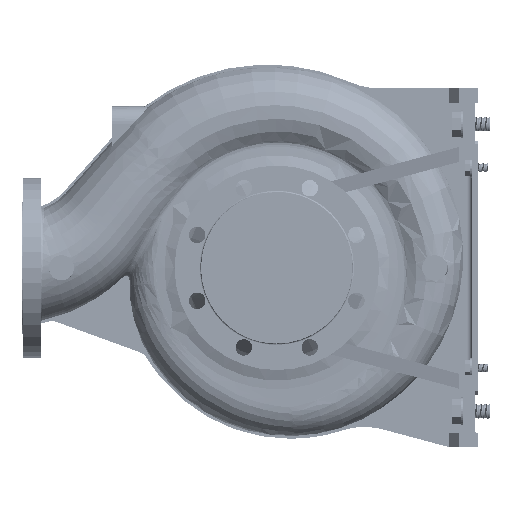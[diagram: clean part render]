
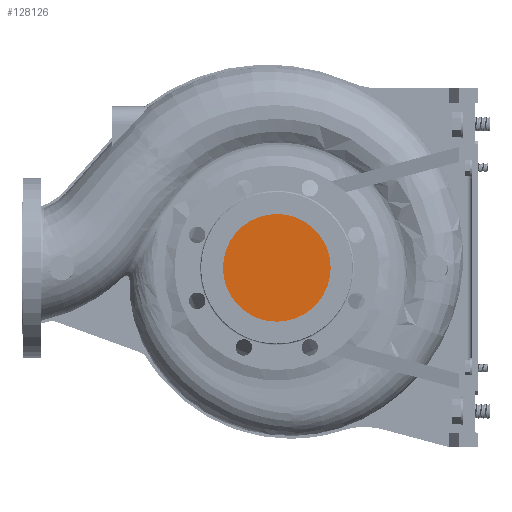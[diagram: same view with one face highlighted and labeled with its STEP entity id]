
A CAD part, left-side view. The second image highlights one B-rep face of the part: STEP entity #128126.
In plain terms, the highlighted planar face has unit normal (-1, 0, 0).
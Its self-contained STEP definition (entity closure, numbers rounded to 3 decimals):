
#1643 = EDGE_CURVE ( 'NONE', #21197, #67955, #199837, .T. ) ;
#4303 = DIRECTION ( 'NONE',  ( 0., 0., 1. ) ) ;
#5433 = AXIS2_PLACEMENT_3D ( 'NONE', #73733, #224554, #55204 ) ;
#21197 = VERTEX_POINT ( 'NONE', #211906 ) ;
#55204 = DIRECTION ( 'NONE',  ( 0., 0., 1. ) ) ;
#55246 = CARTESIAN_POINT ( 'NONE',  ( -135., 0., 0. ) ) ;
#55380 = AXIS2_PLACEMENT_3D ( 'NONE', #55246, #57674, #133078 ) ;
#57674 = DIRECTION ( 'NONE',  ( 1., 0., 0. ) ) ;
#67955 = VERTEX_POINT ( 'NONE', #159149 ) ;
#73733 = CARTESIAN_POINT ( 'NONE',  ( -135., -75.9, -75.9 ) ) ;
#101603 = EDGE_CURVE ( 'NONE', #67955, #21197, #102681, .T. ) ;
#102681 = CIRCLE ( 'NONE', #55380, 75. ) ;
#112047 = FACE_OUTER_BOUND ( 'NONE', #160411, .T. ) ;
#117824 = ORIENTED_EDGE ( 'NONE', *, *, #1643, .F. ) ;
#128126 = ADVANCED_FACE ( 'NONE', ( #112047 ), #207230, .T. ) ;
#133078 = DIRECTION ( 'NONE',  ( 0., 0., 1. ) ) ;
#159149 = CARTESIAN_POINT ( 'NONE',  ( -135., 0., -75. ) ) ;
#160411 = EDGE_LOOP ( 'NONE', ( #117824, #175290 ) ) ;
#175290 = ORIENTED_EDGE ( 'NONE', *, *, #101603, .F. ) ;
#188021 = AXIS2_PLACEMENT_3D ( 'NONE', #230482, #208280, #4303 ) ;
#199837 = CIRCLE ( 'NONE', #188021, 75. ) ;
#207230 = PLANE ( 'NONE',  #5433 ) ;
#208280 = DIRECTION ( 'NONE',  ( 1., 0., 0. ) ) ;
#211906 = CARTESIAN_POINT ( 'NONE',  ( -135., 0., 75. ) ) ;
#224554 = DIRECTION ( 'NONE',  ( -1., 0., 0. ) ) ;
#230482 = CARTESIAN_POINT ( 'NONE',  ( -135., 0., 0. ) ) ;
